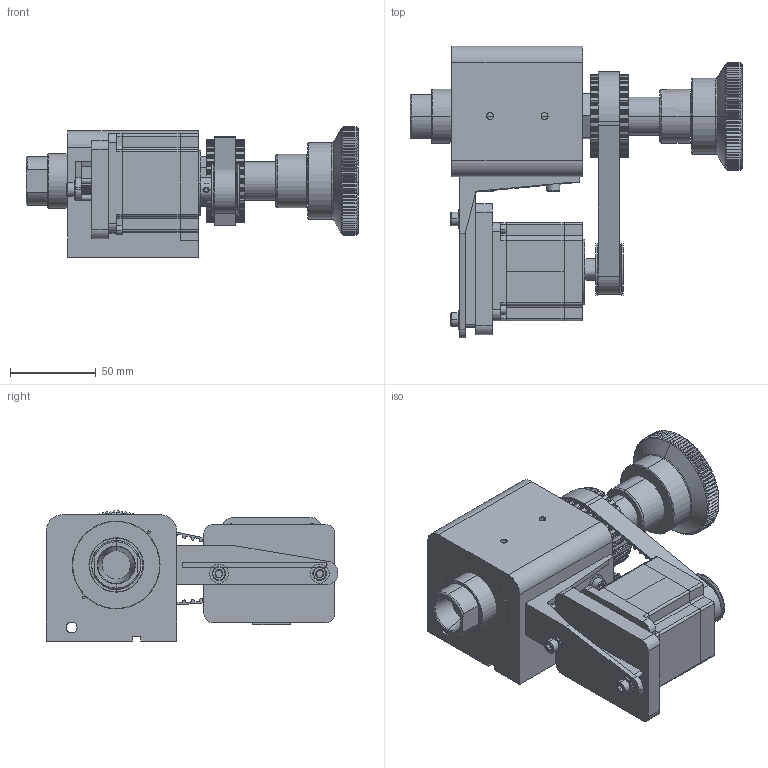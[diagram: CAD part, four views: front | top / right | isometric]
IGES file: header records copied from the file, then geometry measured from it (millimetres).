
Start section: Comment
Global section: file name: 3 collect head stock w cog W motor assem reversed.igs; native system:  By Spatial Corp.; preprocessor: XPlus PS/IGES 3.0; author: Author; organization: Title; date: 20180702.134713; units: inch
Bounding box: 193.59 x 170.18 x 76.01 mm (x, y, z)
Surface area: 165907.8 mm2 (no closed solid volume)
Topology: 0 solids, 0 shells, 2263 faces, 12110 edges, 12106 vertices
Faces by surface type: revolution 1504, extrusion 749, bspline 10
